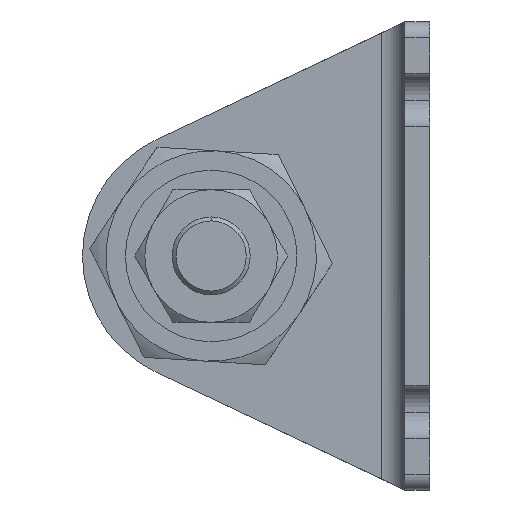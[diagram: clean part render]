
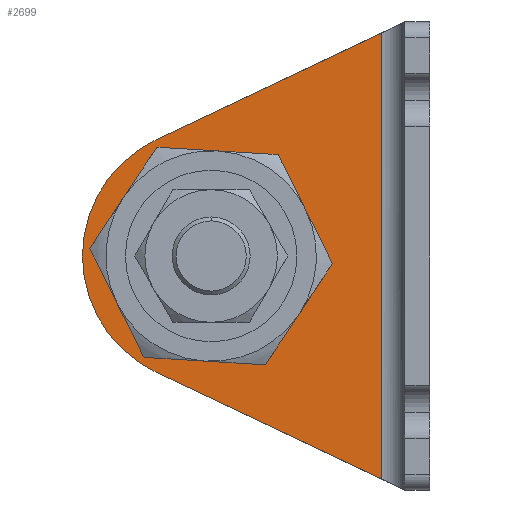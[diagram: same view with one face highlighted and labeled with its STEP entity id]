
A CAD part, left-side view. The second image highlights one B-rep face of the part: STEP entity #2699.
In plain terms, the highlighted planar face has unit normal (-1, 0, 0) as drawn and (1, 0, 0) by its records, which use the part's own axes.
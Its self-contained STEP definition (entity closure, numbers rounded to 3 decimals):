
#70 = CARTESIAN_POINT ( 'NONE',  ( 3.2, 39.5, -30. ) ) ;
#124 = CARTESIAN_POINT ( 'NONE',  ( 3.2, 3.2, -60. ) ) ;
#143 = EDGE_CURVE ( 'NONE', #1591, #3012, #818, .T. ) ;
#148 = LINE ( 'NONE', #639, #1730 ) ;
#152 = DIRECTION ( 'NONE',  ( 1., 0., 0. ) ) ;
#163 = EDGE_CURVE ( 'NONE', #3621, #1074, #3278, .T. ) ;
#265 = ORIENTED_EDGE ( 'NONE', *, *, #163, .T. ) ;
#321 = DIRECTION ( 'NONE',  ( 1., 0., 0. ) ) ;
#325 = EDGE_LOOP ( 'NONE', ( #2895, #1695, #3079, #2167, #265 ) ) ;
#387 = CARTESIAN_POINT ( 'NONE',  ( 3.2, 6.2, -1.421 ) ) ;
#426 = CARTESIAN_POINT ( 'NONE',  ( 3.2, 6.2, -58.579 ) ) ;
#445 = AXIS2_PLACEMENT_3D ( 'NONE', #124, #2595, #2272 ) ;
#448 = CARTESIAN_POINT ( 'NONE',  ( 3.2, 3.2, -60. ) ) ;
#639 = CARTESIAN_POINT ( 'NONE',  ( 3.2, 26.408, -10.99 ) ) ;
#785 = DIRECTION ( 'NONE',  ( 0., 0.904, 0.428 ) ) ;
#812 = EDGE_CURVE ( 'NONE', #3585, #2723, #1352, .T. ) ;
#818 = LINE ( 'NONE', #448, #2332 ) ;
#830 = DIRECTION ( 'NONE',  ( 1., 0., 0. ) ) ;
#1074 = VERTEX_POINT ( 'NONE', #3390 ) ;
#1120 = ORIENTED_EDGE ( 'NONE', *, *, #2974, .F. ) ;
#1145 = CIRCLE ( 'NONE', #2000, 16.5 ) ;
#1159 = AXIS2_PLACEMENT_3D ( 'NONE', #2174, #3140, #1577 ) ;
#1222 = VERTEX_POINT ( 'NONE', #387 ) ;
#1352 = CIRCLE ( 'NONE', #1462, 11.5 ) ;
#1462 = AXIS2_PLACEMENT_3D ( 'NONE', #2635, #152, #2353 ) ;
#1471 = AXIS2_PLACEMENT_3D ( 'NONE', #2505, #321, #2522 ) ;
#1481 = DIRECTION ( 'NONE',  ( 0., 1., 0. ) ) ;
#1483 = FACE_OUTER_BOUND ( 'NONE', #325, .T. ) ;
#1495 = CARTESIAN_POINT ( 'NONE',  ( 3.2, 28., -30. ) ) ;
#1577 = DIRECTION ( 'NONE',  ( 0., 1., 0. ) ) ;
#1591 = VERTEX_POINT ( 'NONE', #426 ) ;
#1695 = ORIENTED_EDGE ( 'NONE', *, *, #1919, .T. ) ;
#1730 = VECTOR ( 'NONE', #3794, 1000. ) ;
#1843 = EDGE_CURVE ( 'NONE', #3012, #3621, #1145, .T. ) ;
#1847 = EDGE_LOOP ( 'NONE', ( #1120, #2106 ) ) ;
#1919 = EDGE_CURVE ( 'NONE', #1222, #1591, #2416, .T. ) ;
#1933 = VECTOR ( 'NONE', #3672, 1000. ) ;
#1961 = CARTESIAN_POINT ( 'NONE',  ( 3.2, 16.5, -30. ) ) ;
#2000 = AXIS2_PLACEMENT_3D ( 'NONE', #1495, #830, #1481 ) ;
#2106 = ORIENTED_EDGE ( 'NONE', *, *, #812, .F. ) ;
#2167 = ORIENTED_EDGE ( 'NONE', *, *, #1843, .T. ) ;
#2174 = CARTESIAN_POINT ( 'NONE',  ( 3.2, 28., -30. ) ) ;
#2223 = CARTESIAN_POINT ( 'NONE',  ( 3.2, 44.5, -30. ) ) ;
#2272 = DIRECTION ( 'NONE',  ( 0., 1., 0. ) ) ;
#2332 = VECTOR ( 'NONE', #785, 1000. ) ;
#2353 = DIRECTION ( 'NONE',  ( 0., 1., 0. ) ) ;
#2416 = LINE ( 'NONE', #3332, #1933 ) ;
#2504 = FACE_BOUND ( 'NONE', #1847, .T. ) ;
#2505 = CARTESIAN_POINT ( 'NONE',  ( 3.2, 28., -30. ) ) ;
#2522 = DIRECTION ( 'NONE',  ( 0., 1., 0. ) ) ;
#2595 = DIRECTION ( 'NONE',  ( 1., 0., 0. ) ) ;
#2635 = CARTESIAN_POINT ( 'NONE',  ( 3.2, 28., -30. ) ) ;
#2699 = ADVANCED_FACE ( 'NONE', ( #1483, #2504 ), #3606, .T. ) ;
#2723 = VERTEX_POINT ( 'NONE', #70 ) ;
#2895 = ORIENTED_EDGE ( 'NONE', *, *, #2981, .F. ) ;
#2974 = EDGE_CURVE ( 'NONE', #2723, #3585, #3408, .T. ) ;
#2981 = EDGE_CURVE ( 'NONE', #1222, #1074, #148, .T. ) ;
#3012 = VERTEX_POINT ( 'NONE', #3436 ) ;
#3079 = ORIENTED_EDGE ( 'NONE', *, *, #143, .T. ) ;
#3140 = DIRECTION ( 'NONE',  ( 1., 0., 0. ) ) ;
#3278 = CIRCLE ( 'NONE', #1159, 16.5 ) ;
#3332 = CARTESIAN_POINT ( 'NONE',  ( 3.2, 6.2, -60. ) ) ;
#3390 = CARTESIAN_POINT ( 'NONE',  ( 3.2, 35.062, -15.087 ) ) ;
#3408 = CIRCLE ( 'NONE', #1471, 11.5 ) ;
#3436 = CARTESIAN_POINT ( 'NONE',  ( 3.2, 35.062, -44.913 ) ) ;
#3585 = VERTEX_POINT ( 'NONE', #1961 ) ;
#3606 = PLANE ( 'NONE',  #445 ) ;
#3621 = VERTEX_POINT ( 'NONE', #2223 ) ;
#3672 = DIRECTION ( 'NONE',  ( 0., 0., -1. ) ) ;
#3794 = DIRECTION ( 'NONE',  ( 0., 0.904, -0.428 ) ) ;
